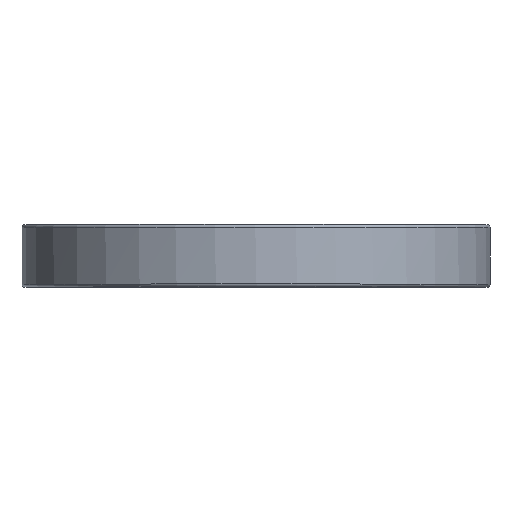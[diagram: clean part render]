
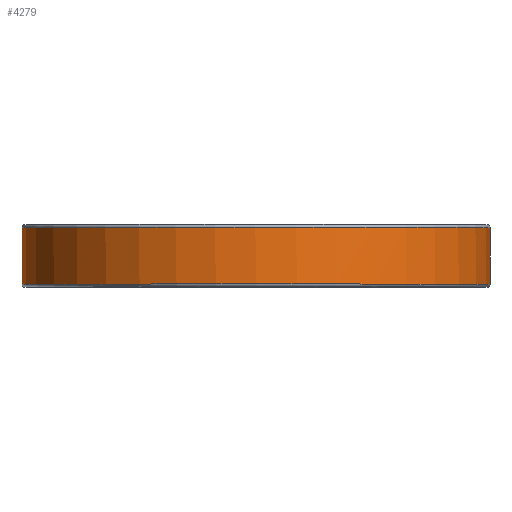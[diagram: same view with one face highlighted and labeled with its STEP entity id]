
A CAD part, top view. The second image highlights one B-rep face of the part: STEP entity #4279.
In plain terms, the highlighted cylindrical face has radius 82.5 mm (diameter 165 mm), a partial arc.
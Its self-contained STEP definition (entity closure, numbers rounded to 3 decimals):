
#1629=VERTEX_POINT('',#4639);
#1673=EDGE_CURVE('',#2393,#1629,#4685,.T.);
#1709=VERTEX_POINT('',#4727);
#2113=EDGE_CURVE('',#1629,#1709,#5183,.T.);
#2343=EDGE_CURVE('',#2737,#1709,#5442,.T.);
#2393=VERTEX_POINT('',#5499);
#2543=VERTEX_POINT('',#5665);
#2737=VERTEX_POINT('',#5878);
#2835=VERTEX_POINT('',#5989);
#3135=EDGE_CURVE('',#2543,#2393,#6313,.T.);
#3873=EDGE_CURVE('',#2737,#2835,#7147,.T.);
#3945=EDGE_CURVE('',#2835,#2543,#7232,.T.);
#4279=ADVANCED_FACE('',(#7607),#7608,.T.);
#4639=CARTESIAN_POINT('',(-82.499,1.0,0.36));
#4685=CIRCLE('',#8095,82.5);
#4727=CARTESIAN_POINT('',(-82.5,1.0,0.));
#5183=CIRCLE('',#8733,82.5);
#5442=LINE('',#9074,#9075);
#5499=CARTESIAN_POINT('',(82.5,1.0,0.));
#5665=CARTESIAN_POINT('',(82.5,21.0,0.));
#5878=CARTESIAN_POINT('',(-82.5,21.0,0.));
#5989=CARTESIAN_POINT('',(82.498,21.0,0.512));
#6313=LINE('',#10203,#10204);
#7147=CIRCLE('',#11284,82.5);
#7232=CIRCLE('',#11386,82.5);
#7607=FACE_OUTER_BOUND('',#11886,.T.);
#7608=CYLINDRICAL_SURFACE('',#11887,82.5);
#8095=AXIS2_PLACEMENT_3D('',#12385,#12386,#12387);
#8733=AXIS2_PLACEMENT_3D('',#13079,#13080,#13081);
#9074=CARTESIAN_POINT('',(-82.5,21.0,0.));
#9075=VECTOR('',#13426,20.0);
#10203=CARTESIAN_POINT('',(82.5,21.0,0.));
#10204=VECTOR('',#14461,20.0);
#11284=AXIS2_PLACEMENT_3D('',#15572,#15573,#15574);
#11386=AXIS2_PLACEMENT_3D('',#15700,#15701,#15702);
#11886=EDGE_LOOP('',(#16173,#16174,#16175,#16176,#16177,#16178));
#11887=AXIS2_PLACEMENT_3D('',#16179,#16180,#16181);
#12385=CARTESIAN_POINT('',(0.0,1.0,0.0));
#12386=DIRECTION('',(0.0,-1.0,0.0));
#12387=DIRECTION('',(1.0,0.0,0.0));
#13079=CARTESIAN_POINT('',(0.0,1.0,0.0));
#13080=DIRECTION('',(0.0,-1.0,0.0));
#13081=DIRECTION('',(1.0,0.0,0.0));
#13426=DIRECTION('',(0.0,-1.0,0.));
#14461=DIRECTION('',(0.0,-1.0,0.));
#15572=CARTESIAN_POINT('',(0.0,21.0,0.0));
#15573=DIRECTION('',(0.0,1.0,0.0));
#15574=DIRECTION('',(-1.0,0.0,0.0));
#15700=CARTESIAN_POINT('',(0.0,21.0,0.0));
#15701=DIRECTION('',(0.0,1.0,0.0));
#15702=DIRECTION('',(-1.0,0.0,0.0));
#16173=ORIENTED_EDGE('',*,*,#3135,.F.);
#16174=ORIENTED_EDGE('',*,*,#3945,.F.);
#16175=ORIENTED_EDGE('',*,*,#3873,.F.);
#16176=ORIENTED_EDGE('',*,*,#2343,.T.);
#16177=ORIENTED_EDGE('',*,*,#2113,.F.);
#16178=ORIENTED_EDGE('',*,*,#1673,.F.);
#16179=CARTESIAN_POINT('',(0.0,22.0,0.0));
#16180=DIRECTION('',(-0.0,-1.0,-0.0));
#16181=DIRECTION('',(-1.0,0.0,0.0));
